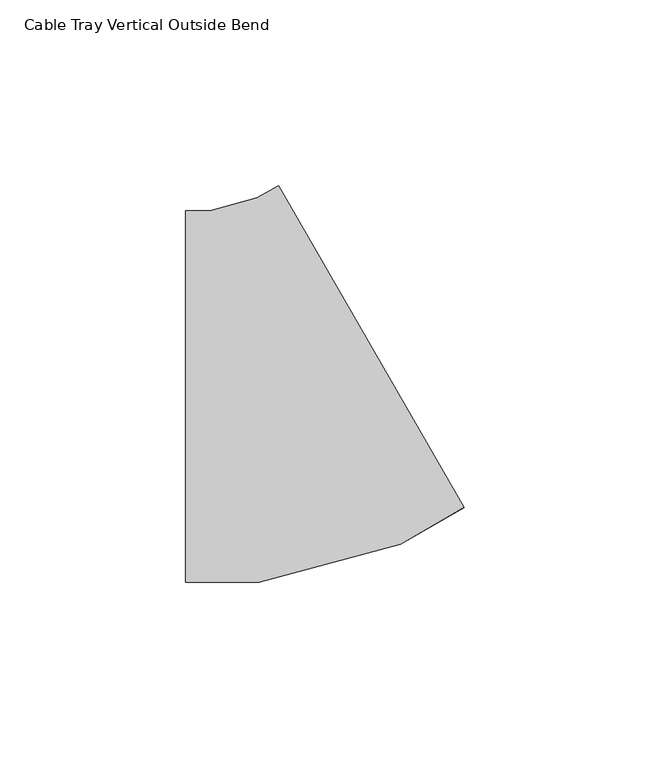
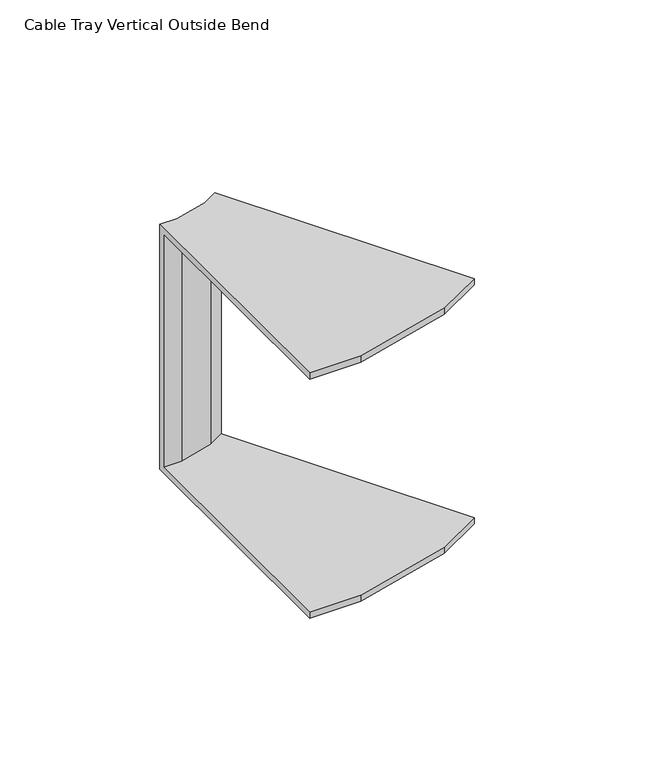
"""IFC4 building model written with IfcOpenShell, lengths in millimetres: cable carrier fitting geometry, Cable Tray Vertical Outside Bend : ELEC_ELV_TKG_N2402."""

from ifc_helpers import new_model, si_unit, origin, place, context, project, spatial, faceted_brep, source, transform, mapped, element, save


def cable_tray_vertical_outside_bend_0b2dca79(model_context):
    return source(origin(), model_context, "Body", "Brep", [
        faceted_brep([(-26.8060805, -50.0, 50.0), (-26.8060805, 50.0, 50.0), (-26.8060805, 50.0, -50.0), (-26.8060805, -50.0, -50.0), (-26.8060805, -50.0, -47.46), (-26.8060805, 47.46, -47.46), (-26.8060805, 47.46, 47.46), (-26.8060805, -50.0, 47.46), (48.2209725, -29.8881878, 50.0), (48.2209725, -29.8881878, 47.46), (-0.5266048, 54.5044974, 47.46), (-0.5266048, 54.5044974, -47.46), (48.2209725, -29.8881878, -47.46), (48.2209725, -29.8881878, -50.0), (-1.7970629, 56.7039374, -50.0), (-1.7970629, 56.7039374, 50.0), (-7.0502605, -50.0, 50.0), (31.113988, -39.7696608, 50.0), (-7.499391, 53.4101131, 50.0), (-20.2208072, 50.0, 50.0), (-20.2208072, 50.0, -50.0), (-7.499391, 53.4101131, -50.0), (31.113988, -39.7696608, -50.0), (-7.0502605, -50.0, -50.0), (-7.0502605, -50.0, -47.46), (31.113988, -39.7696608, -47.46), (-6.5186112, 51.0433468, -47.46), (-19.8862753, 47.46, -47.46), (-19.8862753, 47.46, 47.46), (-6.5186112, 51.0433468, 47.46), (31.113988, -39.7696608, 47.46), (-7.0502605, -50.0, 47.46)], [[[0, 1, 2, 3, 4, 5, 6, 7]], [[8, 9, 10, 11, 12, 13, 14, 15]], [[1, 0, 16, 17, 8, 15, 18, 19]], [[2, 1, 19, 20]], [[3, 2, 20, 21, 14, 13, 22, 23]], [[4, 3, 23, 24]], [[5, 4, 24, 25, 12, 11, 26, 27]], [[6, 5, 27, 28]], [[7, 6, 28, 29, 10, 9, 30, 31]], [[0, 7, 31, 16]], [[20, 19, 18, 21]], [[24, 23, 22, 25]], [[28, 27, 26, 29]], [[16, 31, 30, 17]], [[21, 18, 15, 14]], [[25, 22, 13, 12]], [[29, 26, 11, 10]], [[17, 30, 9, 8]]]),
    ])


if __name__ == "__main__":
    model = new_model("IFC4")
    model_context = context("Model", 3, world=origin())
    ifc_project = project(units=[si_unit("LENGTHUNIT", "METRE", prefix="MILLI")], contexts=[model_context])
    site = spatial("IfcSite", under=ifc_project)
    building = spatial("IfcBuilding", under=site)
    placement = place(None, origin())
    cable_tray_vertical_outside_bend_shape = cable_tray_vertical_outside_bend_0b2dca79(model_context)
    element("IfcCableCarrierFitting", 1, ObjectType="Cable Tray Vertical Outside Bend : ELEC_ELV_TKG_N2402", at=placement, inside=building, context=model_context, shape_type="MappedRepresentation", body=[
        mapped(cable_tray_vertical_outside_bend_shape, transform((0.0, 0.0, 0.0), x_axis=(1.0, 0.0, 0.0), y_axis=(0.0, 1.0, 0.0), z_axis=(0.0, 0.0, 1.0))),
    ])
    save(model, "model.ifc")
